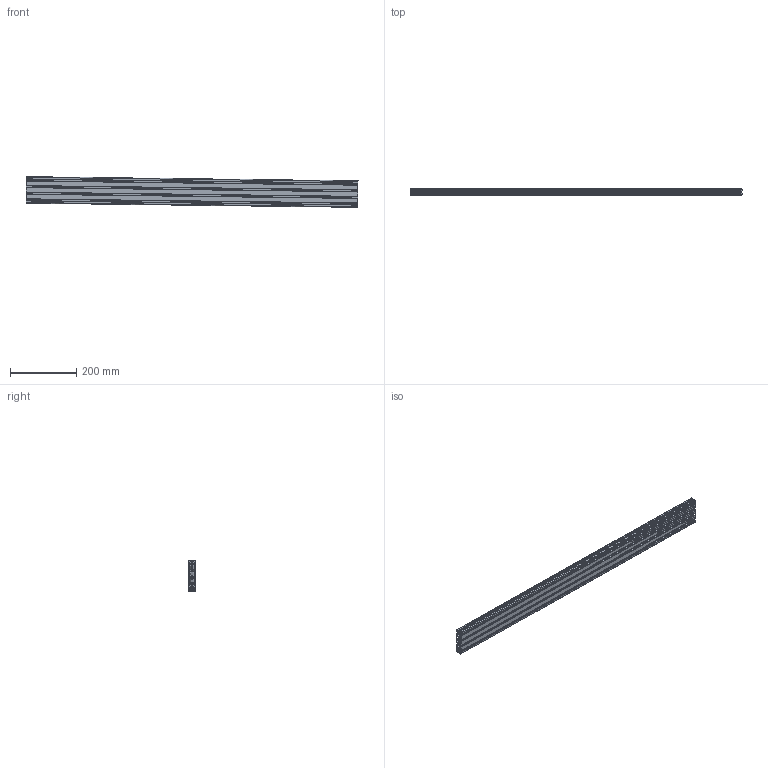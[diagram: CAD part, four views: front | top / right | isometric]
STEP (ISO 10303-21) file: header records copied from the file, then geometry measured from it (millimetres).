
FILE_DESCRIPTION (( 'STEP AP203' ), '1' );
FILE_NAME ('10411_PRO_5_80x20.STEP', '2016-03-02T14:47:22', ( '' ), ( '' ), 'SwSTEP 2.0', 'SolidWorks 2015', '' );
FILE_SCHEMA (( 'CONFIG_CONTROL_DESIGN' ));
Length unit declared in the file: millimetre
Products named in the file (1): 10411_PRO_5_80x20
Bounding box: 1001 x 20 x 92.49 mm (x, y, z)
Volume: 609719.3 mm3; surface area: 583589.1 mm2
Topology: 1 solids, 1 shells, 222 faces, 660 edges, 440 vertices
Faces by surface type: cylinder 118, plane 104
Entity records: 7625 total; most frequent: DIRECTION 1342, CARTESIAN_POINT 1323, ORIENTED_EDGE 1320, EDGE_CURVE 660, AXIS2_PLACEMENT_3D 459, VERTEX_POINT 440, LINE 424, VECTOR 424
